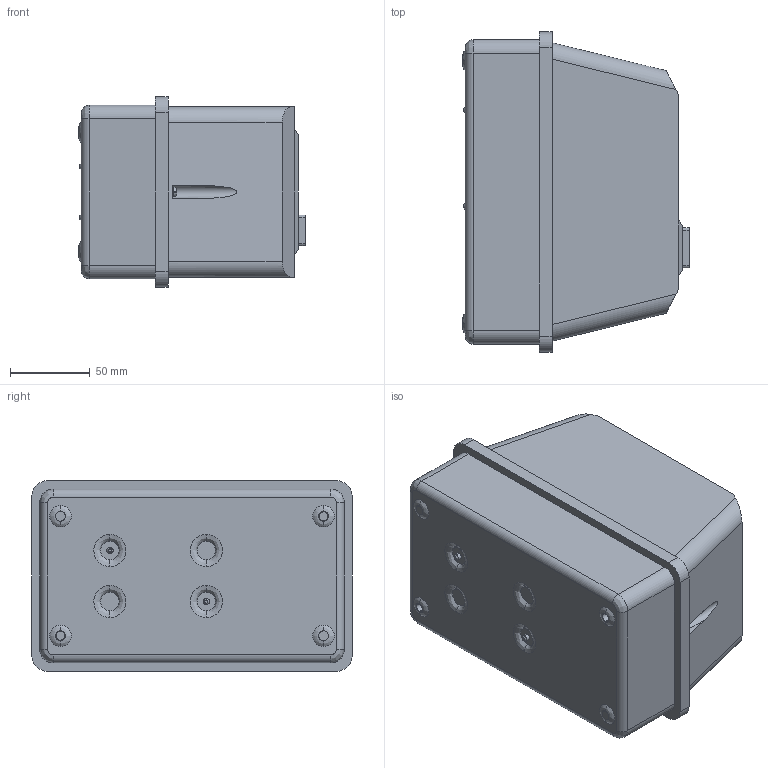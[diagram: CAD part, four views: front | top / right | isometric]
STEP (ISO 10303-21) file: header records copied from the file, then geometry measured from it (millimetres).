
FILE_DESCRIPTION(('FreeCAD Model'),'2;1');
FILE_NAME('C:/Users/Metaltex-99/Desktop/Contactors_3D/CPM32_40.stp', '2020-08-10T11:13:27',('Engenharia Metaltex'),('Metaltex'), 'Open CASCADE STEP processor 7.3','FreeCAD','Unknown');
FILE_SCHEMA(('AUTOMOTIVE_DESIGN { 1 0 10303 214 1 1 1 1 }'));
Products named in the file (1): CPM32_40
Bounding box: 142.1 x 201 x 119.5 mm (x, y, z)
Volume: 2562165.5 mm3; surface area: 119706.7 mm2
Topology: 1 solids, 14 shells, 607 faces, 1545 edges, 1022 vertices
Faces by surface type: plane 419, bspline 118, cylinder 66, cone 4
Entity records: 50113 total; most frequent: CARTESIAN_POINT 20855, DIRECTION 4723, LINE 3389, VECTOR 3389, ORIENTED_EDGE 3090, PCURVE 3090, DEFINITIONAL_REPRESENTATION 3090, EDGE_CURVE 1545
